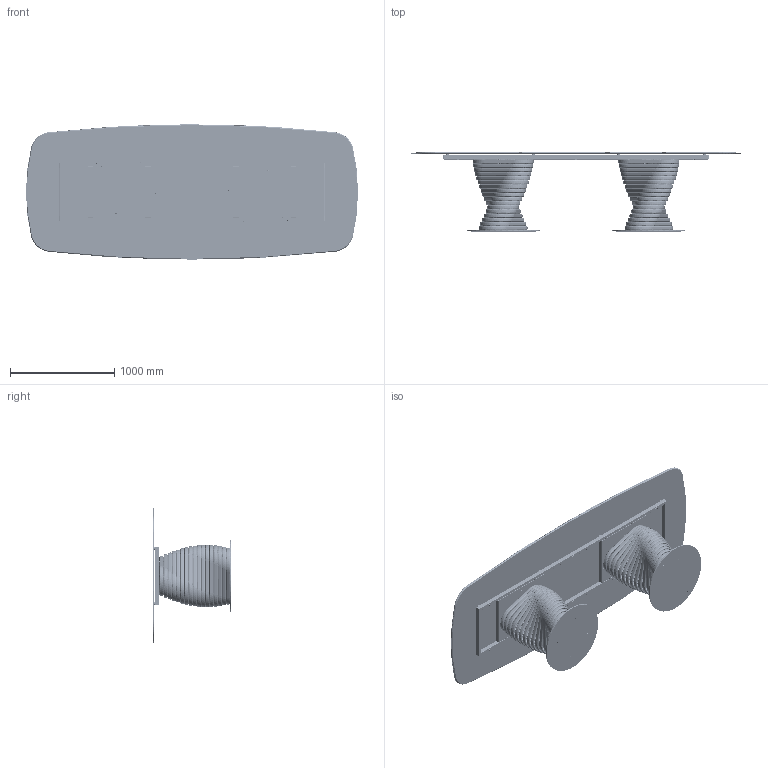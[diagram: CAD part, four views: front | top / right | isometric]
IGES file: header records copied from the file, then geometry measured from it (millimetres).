
Start section: SolidWorks IGES file using analytic representation for surfaces
Global section: file name: Y:\eforma\TECNICO\SOLIDWORKS\E-FORMA\0-3D_WEBSITE\3D_FOR_WEB catalogo 2024\3D_FOR_WEB catalogo 2024 - Tavoli\Rotolo 2024\RO47C_Rotolo_319x130x74h_Ceramic Shaped.IGS; native system: SolidWorks 2022; preprocessor: SolidWorks 2022; author: eforma.tech; date: 240807.152957; units: millimetre
Bounding box: 3190 x 758 x 1300 mm (x, y, z)
Surface area: 30072991.1 mm2 (no closed solid volume)
Topology: 0 solids, 0 shells, 2857 faces, 40576 edges, 40528 vertices
Faces by surface type: bspline 1568, revolution 1289
